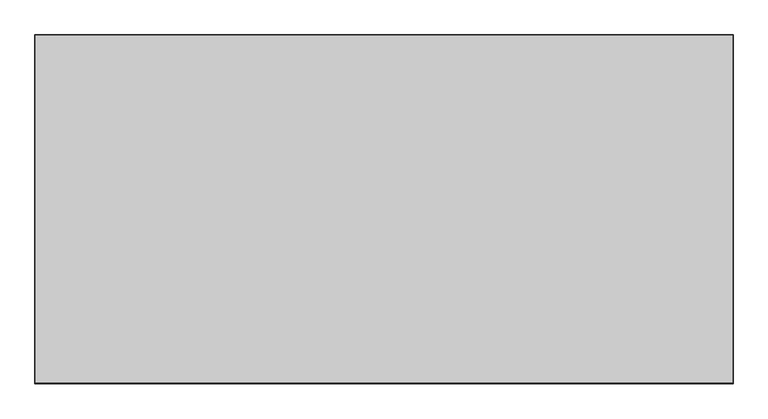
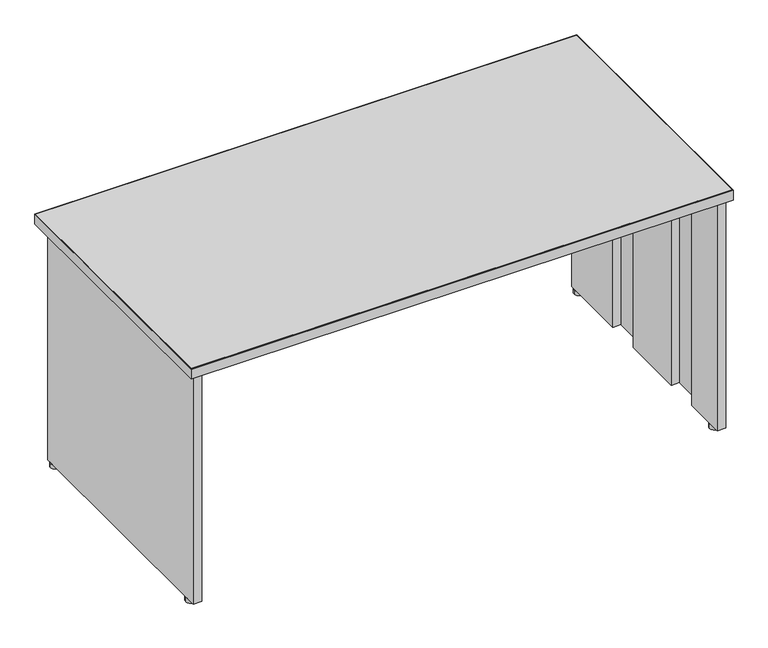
"""IFC4 building model written with IfcOpenShell, lengths in millimetres: furniture geometry, Steelcase - Kick Freestanding - Desk Shell - Partial Height Modesty Panel : 30D x 60W."""

from ifc_helpers import new_model, si_unit, point, frame, frame_2d, origin, origin_with_axes, place, context, project, spatial, polyline, circle_curve, trimmed, segment, composite_curve, outline, extrude, source, transform, mapped, element, save


def furniture_b6eceff9(model_context):
    return source(origin(), model_context, "Body", "SweptSolid", [
        extrude(outline(polyline([(677.0450425, -999.9647597), (677.0450425, -974.5647604), (2126.6738425, -974.5647604), (2126.6738425, -999.9647597), (677.0450425, -999.9647597)])), frame((0.0, 0.0, 390.144), z_axis=(0.0, 0.0, 1.0), x_axis=(1.0, 0.0, 0.0)), (0.0, 0.0, 1.0), 304.8),
        extrude(outline(composite_curve([segment(trimmed(circle_curve(frame_2d((665.1357759, -986.9367877)), 13.97), [point((651.1657759, -986.9367877))], [point((679.1057759, -986.9367877))], False, "CARTESIAN"), True, "CONTINUOUS"), segment(trimmed(circle_curve(frame_2d((665.1357759, -986.9367877)), 13.97), [point((679.1057759, -986.9367877))], [point((651.1657759, -986.9367877))], False, "CARTESIAN"), True, "CONTINUOUS")], self_intersect=False)), origin_with_axes(), (0.0, 0.0, 1.0), 12.446),
        extrude(outline(composite_curve([segment(trimmed(circle_curve(frame_2d((665.1357759, -1646.0441481)), 13.97), [point((651.1657759, -1646.0441481))], [point((679.1057759, -1646.0441481))], False, "CARTESIAN"), True, "CONTINUOUS"), segment(trimmed(circle_curve(frame_2d((665.1357759, -1646.0441481)), 13.97), [point((679.1057759, -1646.0441481))], [point((651.1657759, -1646.0441481))], False, "CARTESIAN"), True, "CONTINUOUS")], self_intersect=False)), origin_with_axes(), (0.0, 0.0, 1.0), 12.446),
        extrude(outline(polyline([(2126.6738425, -1172.2529604), (2126.6738425, -972.7867604), (2151.1594421, -972.7867604), (2151.1594421, -1680.938741), (2126.6738421, -1680.938741), (2126.6738421, -1556.6311348), (2149.1020425, -1556.6311348), (2149.1020425, -1456.9107682), (2126.6738421, -1456.9107682), (2126.6738421, -1271.9733647), (2149.1020425, -1271.9733647), (2149.1020425, -1172.2529604), (2126.6738425, -1172.2529604)])), frame((0.0, 0.0, 12.446), z_axis=(0.0, 0.0, 1.0), x_axis=(1.0, 0.0, 0.0)), (0.0, 0.0, 1.0), 682.498),
        extrude(outline(polyline([(677.0450425, -1172.2529604), (654.6168425, -1172.2529604), (654.6168425, -1271.9733647), (677.0450429, -1271.9733647), (677.0450429, -1456.9107682), (654.6168425, -1456.9107682), (654.6168425, -1556.6311348), (677.0450429, -1556.6311348), (677.0450429, -1680.938741), (652.5594429, -1680.938741), (652.5594429, -972.7867604), (677.0450425, -972.7867604), (677.0450425, -1172.2529604)])), frame((0.0, 0.0, 12.446), z_axis=(0.0, 0.0, 1.0), x_axis=(1.0, 0.0, 0.0)), (0.0, 0.0, 1.0), 682.498),
        extrude(outline(polyline([(2162.8688425, -932.6293604), (2162.8688425, -1690.6669215), (640.8500425, -1690.6669215), (640.8500425, -932.6293604), (2162.8688425, -932.6293604)])), frame((0.0, 0.0, 694.944), z_axis=(0.0, 0.0, 1.0), x_axis=(1.0, 0.0, 0.0)), (0.0, 0.0, 1.0), 28.956),
        extrude(outline(polyline([(2163.8594425, -931.6387604), (2163.8594425, -1693.6387604), (639.8594425, -1693.6387604), (639.8594425, -931.6387604), (2163.8594425, -931.6387604)]), holes=[polyline([(2162.8688425, -932.6293604), (640.8500425, -932.6293604), (640.8500425, -1690.6669215), (2162.8688425, -1690.6669215), (2162.8688425, -932.6293604)])]), frame((0.0, 0.0, 694.944), z_axis=(0.0, 0.0, 1.0), x_axis=(1.0, 0.0, 0.0)), (0.0, 0.0, 1.0), 28.956),
        extrude(outline(composite_curve([segment(trimmed(circle_curve(frame_2d((2138.5831091, -1646.0441481)), 13.97), [point((2124.6131091, -1646.0441481))], [point((2152.5531091, -1646.0441481))], False, "CARTESIAN"), True, "CONTINUOUS"), segment(trimmed(circle_curve(frame_2d((2138.5831091, -1646.0441481)), 13.97), [point((2152.5531091, -1646.0441481))], [point((2124.6131091, -1646.0441481))], False, "CARTESIAN"), True, "CONTINUOUS")], self_intersect=False)), origin_with_axes(), (0.0, 0.0, 1.0), 12.446),
        extrude(outline(composite_curve([segment(trimmed(circle_curve(frame_2d((2138.5831091, -986.9367877)), 13.97), [point((2152.5531091, -986.9367877))], [point((2124.6131091, -986.9367877))], False, "CARTESIAN"), True, "CONTINUOUS"), segment(trimmed(circle_curve(frame_2d((2138.5831091, -986.9367877)), 13.97), [point((2124.6131091, -986.9367877))], [point((2152.5531091, -986.9367877))], False, "CARTESIAN"), True, "CONTINUOUS")], self_intersect=False)), origin_with_axes(), (0.0, 0.0, 1.0), 12.446),
    ])


if __name__ == "__main__":
    model = new_model("IFC4")
    model_context = context("Model", 3, world=origin())
    ifc_project = project(units=[si_unit("LENGTHUNIT", "METRE", prefix="MILLI")], contexts=[model_context])
    site = spatial("IfcSite", under=ifc_project)
    building = spatial("IfcBuilding", under=site)
    placement = place(None, origin())
    furniture_shape = furniture_b6eceff9(model_context)
    element("IfcFurniture", 1, ObjectType="Steelcase - Kick Freestanding - Desk Shell - Partial Height Modesty Panel : 30D x 60W", at=placement, inside=building, context=model_context, shape_type="MappedRepresentation", body=[
        mapped(furniture_shape, transform((0.0, 0.0, 0.0), x_axis=(1.0, 0.0, 0.0), y_axis=(0.0, 1.0, 0.0), z_axis=(0.0, 0.0, 1.0))),
    ])
    save(model, "model.ifc")
